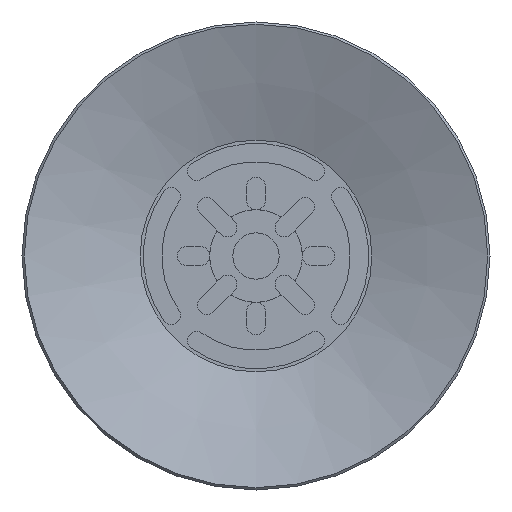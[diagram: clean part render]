
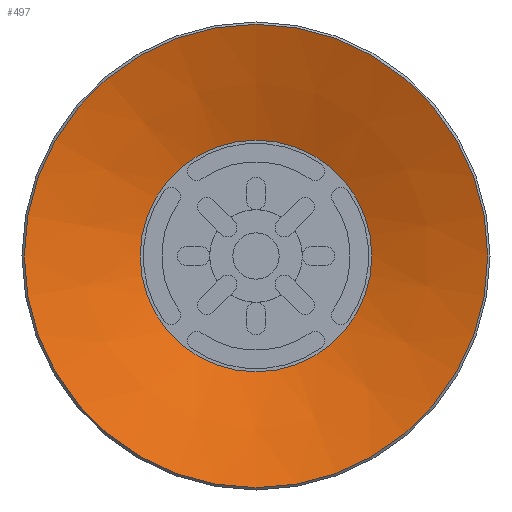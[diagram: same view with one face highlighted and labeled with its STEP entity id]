
A CAD part, front view. The second image highlights one B-rep face of the part: STEP entity #497.
In plain terms, the highlighted conical face has half-angle 70.201 degrees and reference radius 7.5 mm.
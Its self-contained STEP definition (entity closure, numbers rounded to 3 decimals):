
#497=ADVANCED_FACE('',(#816,#817),#818,.F.);
#816=FACE_BOUND('',#1240,.T.);
#817=FACE_OUTER_BOUND('',#1241,.T.);
#818=CONICAL_SURFACE('',#1242,7.5,1.225);
#1240=EDGE_LOOP('',(#2139));
#1241=EDGE_LOOP('',(#2140));
#1242=AXIS2_PLACEMENT_3D('',#2141,#2142,#2143);
#2139=ORIENTED_EDGE('',*,*,#3004,.F.);
#2140=ORIENTED_EDGE('',*,*,#3005,.T.);
#2141=CARTESIAN_POINT('',(0.0,0.0,2.7));
#2142=DIRECTION('',(0.0,0.,-1.0));
#2143=DIRECTION('',(0.0,1.0,0.));
#3004=EDGE_CURVE('',#3547,#3547,#3548,.T.);
#3005=EDGE_CURVE('',#3549,#3549,#3550,.T.);
#3547=VERTEX_POINT('',#4714);
#3548=CIRCLE('',#4715,7.5);
#3549=VERTEX_POINT('',#4716);
#3550=CIRCLE('',#4717,15.0);
#4714=CARTESIAN_POINT('',(0.0,7.5,2.7));
#4715=AXIS2_PLACEMENT_3D('',#5435,#5436,#5437);
#4716=CARTESIAN_POINT('',(0.0,15.0,0.));
#4717=AXIS2_PLACEMENT_3D('',#5438,#5439,#5440);
#5435=CARTESIAN_POINT('',(0.0,0.0,2.7));
#5436=DIRECTION('',(0.0,0.,-1.0));
#5437=DIRECTION('',(0.0,1.0,0.));
#5438=CARTESIAN_POINT('',(0.0,0.0,0.0));
#5439=DIRECTION('',(0.0,0.,-1.0));
#5440=DIRECTION('',(0.0,1.0,0.));
